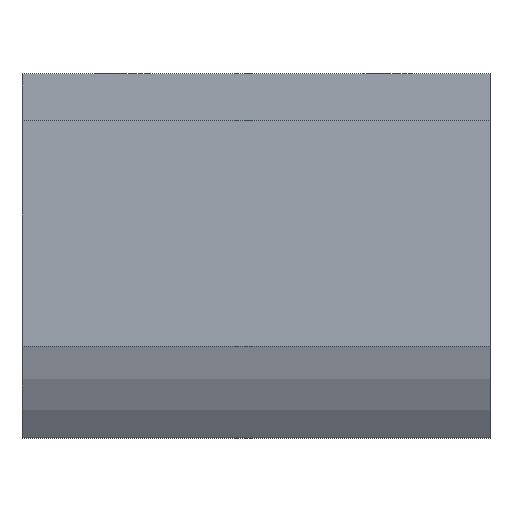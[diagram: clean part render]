
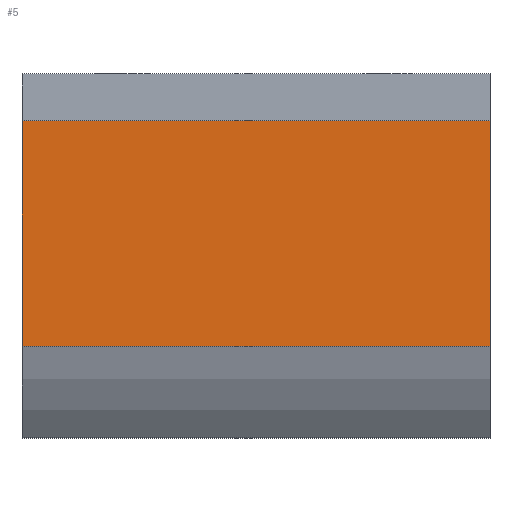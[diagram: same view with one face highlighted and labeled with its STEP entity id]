
A CAD part, top view. The second image highlights one B-rep face of the part: STEP entity #5.
In plain terms, the highlighted planar face has unit normal (0, 0, 1).
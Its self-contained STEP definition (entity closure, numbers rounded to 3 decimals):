
#5 = ADVANCED_FACE ( 'NONE', ( #583 ), #534, .F. ) ;
#20 = CARTESIAN_POINT ( 'NONE',  ( 17.5, -4.093, 16.5 ) ) ;
#27 = CARTESIAN_POINT ( 'NONE',  ( 17.5, 12.75, 16.5 ) ) ;
#80 = VECTOR ( 'NONE', #499, 1000. ) ;
#96 = DIRECTION ( 'NONE',  ( 0., 1., 0. ) ) ;
#123 = ORIENTED_EDGE ( 'NONE', *, *, #363, .F. ) ;
#137 = CARTESIAN_POINT ( 'NONE',  ( -17.5, 12.75, 16.5 ) ) ;
#139 = DIRECTION ( 'NONE',  ( 1., 0., 0. ) ) ;
#141 = DIRECTION ( 'NONE',  ( -1., 0., 0. ) ) ;
#175 = VERTEX_POINT ( 'NONE', #27 ) ;
#200 = CARTESIAN_POINT ( 'NONE',  ( 17.5, -4.093, 16.5 ) ) ;
#221 = VECTOR ( 'NONE', #139, 1000. ) ;
#249 = ORIENTED_EDGE ( 'NONE', *, *, #477, .F. ) ;
#321 = CARTESIAN_POINT ( 'NONE',  ( -17.5, 0., 16.5 ) ) ;
#336 = LINE ( 'NONE', #137, #221 ) ;
#361 = CARTESIAN_POINT ( 'NONE',  ( -17.5, 12.75, 16.5 ) ) ;
#363 = EDGE_CURVE ( 'NONE', #431, #702, #529, .T. ) ;
#398 = CARTESIAN_POINT ( 'NONE',  ( -17.5, 4.1, 16.5 ) ) ;
#408 = EDGE_CURVE ( 'NONE', #431, #175, #804, .T. ) ;
#431 = VERTEX_POINT ( 'NONE', #20 ) ;
#473 = DIRECTION ( 'NONE',  ( 0., 0., -1. ) ) ;
#477 = EDGE_CURVE ( 'NONE', #702, #779, #631, .T. ) ;
#488 = ORIENTED_EDGE ( 'NONE', *, *, #408, .T. ) ;
#499 = DIRECTION ( 'NONE',  ( 0., 1., 0. ) ) ;
#529 = LINE ( 'NONE', #200, #676 ) ;
#534 = PLANE ( 'NONE',  #664 ) ;
#573 = EDGE_LOOP ( 'NONE', ( #748, #249, #123, #488 ) ) ;
#583 = FACE_OUTER_BOUND ( 'NONE', #573, .T. ) ;
#631 = LINE ( 'NONE', #321, #80 ) ;
#658 = DIRECTION ( 'NONE',  ( -1., 0., 0. ) ) ;
#663 = CARTESIAN_POINT ( 'NONE',  ( -17.5, -4.093, 16.5 ) ) ;
#664 = AXIS2_PLACEMENT_3D ( 'NONE', #398, #473, #658 ) ;
#676 = VECTOR ( 'NONE', #141, 1000. ) ;
#683 = EDGE_CURVE ( 'NONE', #779, #175, #336, .T. ) ;
#702 = VERTEX_POINT ( 'NONE', #663 ) ;
#731 = CARTESIAN_POINT ( 'NONE',  ( 17.5, 4.1, 16.5 ) ) ;
#748 = ORIENTED_EDGE ( 'NONE', *, *, #683, .F. ) ;
#779 = VERTEX_POINT ( 'NONE', #361 ) ;
#787 = VECTOR ( 'NONE', #96, 1000. ) ;
#804 = LINE ( 'NONE', #731, #787 ) ;
